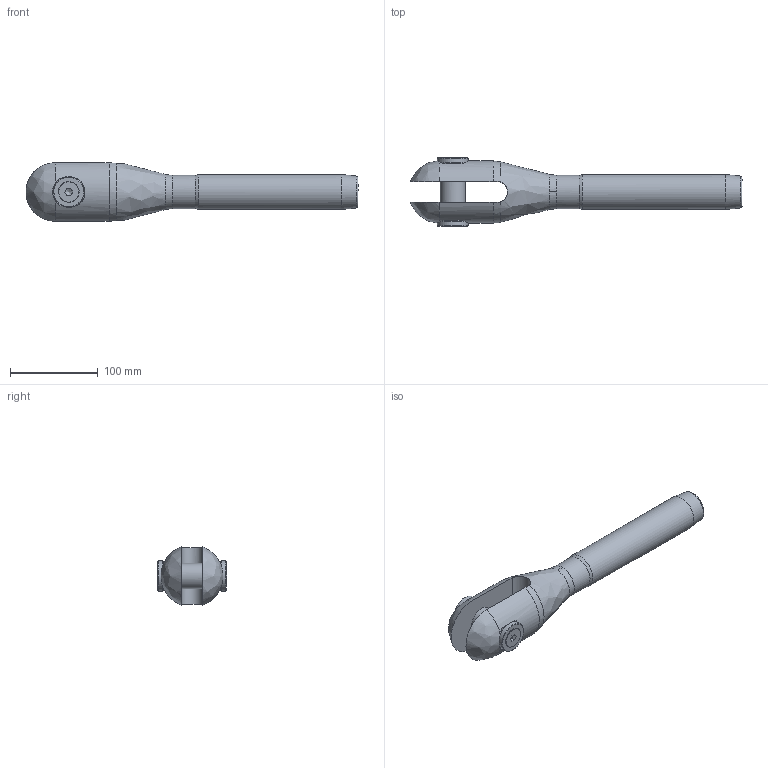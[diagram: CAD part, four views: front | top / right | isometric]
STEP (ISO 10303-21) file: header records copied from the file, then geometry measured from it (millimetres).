
FILE_DESCRIPTION(/* description */ (''),/* implementation_level */ '2;1');
FILE_NAME(/* name */ 'MAC 20_1,4418',/* time_stamp */ '2023-05-23T16:54:53+02:00',/* author */ (''),/* organization */ (''),/* preprocessor_version */ 'ST-DEVELOPER v16.5',/* originating_system */ 'Rhino 7.22',/* authorisation */ '');
FILE_SCHEMA (('CONFIG_CONTROL_DESIGN'));
Length unit declared in the file: millimetre
Products named in the file (1): Document
Bounding box: 379.4 x 79.37 x 66.82 mm (x, y, z)
Volume: 622470.1 mm3; surface area: 88006.9 mm2
Topology: 6 solids, 6 shells, 75 faces, 210 edges, 145 vertices
Faces by surface type: plane 29, bspline 24, cylinder 22
Full cylindrical faces by diameter (mm): 10.106 x2, 12 x2, 12.5 x2, 23.12 x2, 29 x1, 31 x2, 35 x2, 38.1 x1, 40 x1
Entity records: 3138 total; most frequent: CARTESIAN_POINT 1791, ORIENTED_EDGE 412, EDGE_CURVE 206, VERTEX_POINT 145, EDGE_LOOP 85, B_SPLINE_CURVE_WITH_KNOTS 84, ADVANCED_FACE 75, FACE_OUTER_BOUND 75
